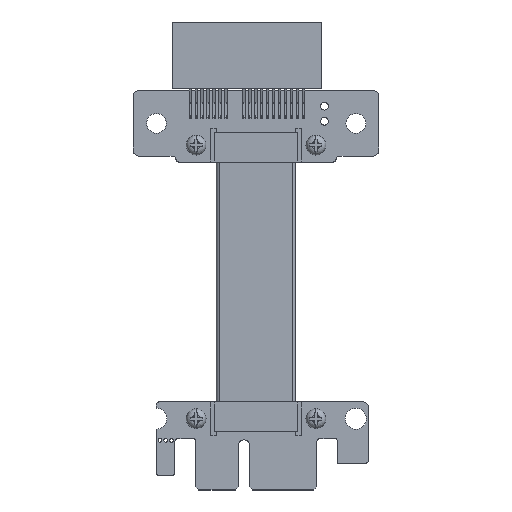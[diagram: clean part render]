
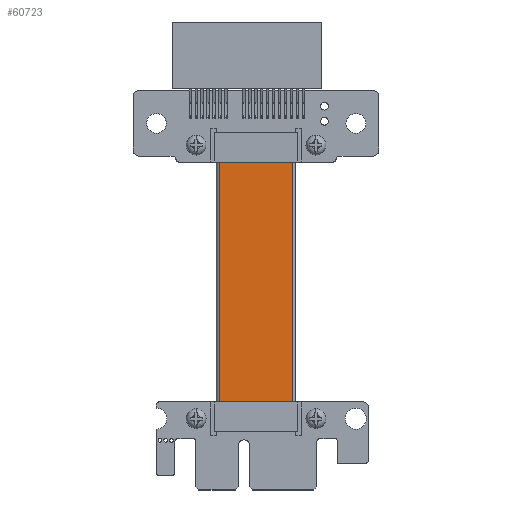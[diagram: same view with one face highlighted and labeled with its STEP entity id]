
A CAD part, top view. The second image highlights one B-rep face of the part: STEP entity #60723.
In plain terms, the highlighted planar face has unit normal (0, 0, 1) as drawn and (0, -1, 0) by its records, which use the part's own axes.
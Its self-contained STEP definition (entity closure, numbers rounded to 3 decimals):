
#60686 = VERTEX_POINT('',#60687);
#60687 = CARTESIAN_POINT('',(12.065,-1.4,-43.));
#60705 = VERTEX_POINT('',#60706);
#60706 = CARTESIAN_POINT('',(12.065,-1.4,0.));
#60713 = EDGE_CURVE('',#60686,#60705,#60714,.T.);
#60714 = LINE('',#60715,#60716);
#60715 = CARTESIAN_POINT('',(12.065,-1.4,-43.));
#60716 = VECTOR('',#60717,1.);
#60717 = DIRECTION('',(0.,0.,1.));
#60723 = ADVANCED_FACE('',(#60724),#60749,.T.);
#60724 = FACE_BOUND('',#60725,.T.);
#60725 = EDGE_LOOP('',(#60726,#60734,#60742,#60748));
#60726 = ORIENTED_EDGE('',*,*,#60727,.F.);
#60727 = EDGE_CURVE('',#60728,#60705,#60730,.T.);
#60728 = VERTEX_POINT('',#60729);
#60729 = CARTESIAN_POINT('',(0.,-1.4,
    0.));
#60730 = LINE('',#60731,#60732);
#60731 = CARTESIAN_POINT('',(6.032,-1.4,0.));
#60732 = VECTOR('',#60733,1.);
#60733 = DIRECTION('',(1.,0.,0.));
#60734 = ORIENTED_EDGE('',*,*,#60735,.F.);
#60735 = EDGE_CURVE('',#60736,#60728,#60738,.T.);
#60736 = VERTEX_POINT('',#60737);
#60737 = CARTESIAN_POINT('',(0.,-1.4,-43.)
  );
#60738 = LINE('',#60739,#60740);
#60739 = CARTESIAN_POINT('',(0.,-1.4,-43.)
  );
#60740 = VECTOR('',#60741,1.);
#60741 = DIRECTION('',(0.,0.,1.));
#60742 = ORIENTED_EDGE('',*,*,#60743,.T.);
#60743 = EDGE_CURVE('',#60736,#60686,#60744,.T.);
#60744 = LINE('',#60745,#60746);
#60745 = CARTESIAN_POINT('',(12.065,-1.4,-43.));
#60746 = VECTOR('',#60747,1.);
#60747 = DIRECTION('',(1.,0.,0.));
#60748 = ORIENTED_EDGE('',*,*,#60713,.T.);
#60749 = PLANE('',#60750);
#60750 = AXIS2_PLACEMENT_3D('',#60751,#60752,#60753);
#60751 = CARTESIAN_POINT('',(6.032,-1.4,-43.));
#60752 = DIRECTION('',(0.,-1.,0.));
#60753 = DIRECTION('',(0.,0.,-1.));
